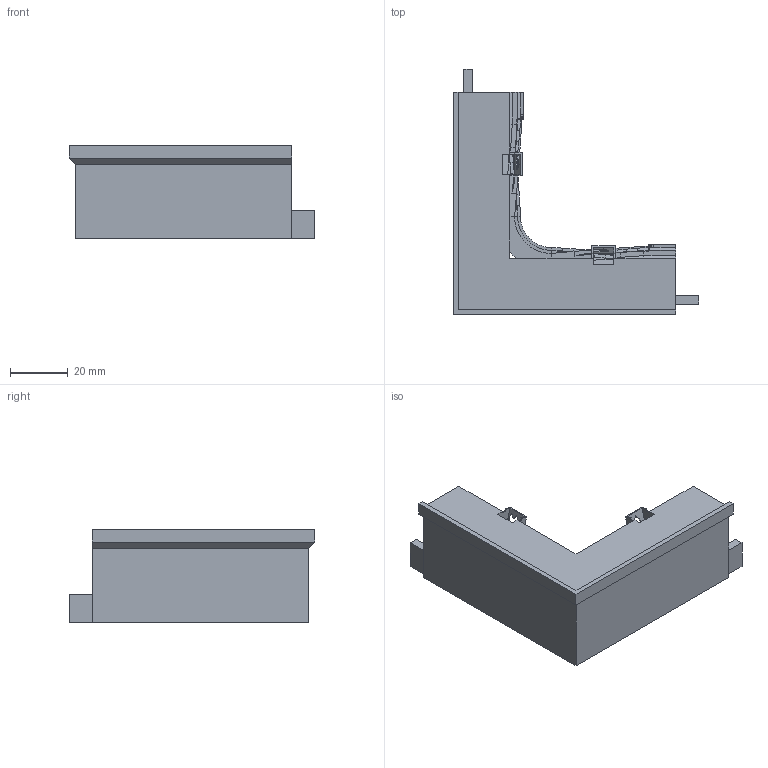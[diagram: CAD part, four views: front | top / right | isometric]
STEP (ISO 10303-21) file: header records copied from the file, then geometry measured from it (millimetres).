
FILE_DESCRIPTION(('Open CASCADE Model'),'2;1');
FILE_NAME('SOLID','2026-10-21T18:51:28',('Author'),('Open CASCADE'), 'Open CASCADE STEP processor 8.0','build123d','Unknown');
FILE_SCHEMA(('AUTOMOTIVE_DESIGN { 1 0 10303 214 1 1 1 1 }'));
Products named in the file (1): SOLID
Bounding box: 85.1 x 85.1 x 32.5 mm (x, y, z)
Volume: 72054.8 mm3; surface area: 17482.1 mm2
Topology: 1 solids, 1 shells, 819 faces, 2217 edges, 1393 vertices
Faces by surface type: bspline 471, plane 341, cylinder 7
Entity records: 56000 total; most frequent: CARTESIAN_POINT 18455, ORIENTED_EDGE 4434, PCURVE 4434, DEFINITIONAL_REPRESENTATION 4434, DIRECTION 4422, LINE 3670, VECTOR 3670, B_SPLINE_CURVE_WITH_KNOTS 2941
